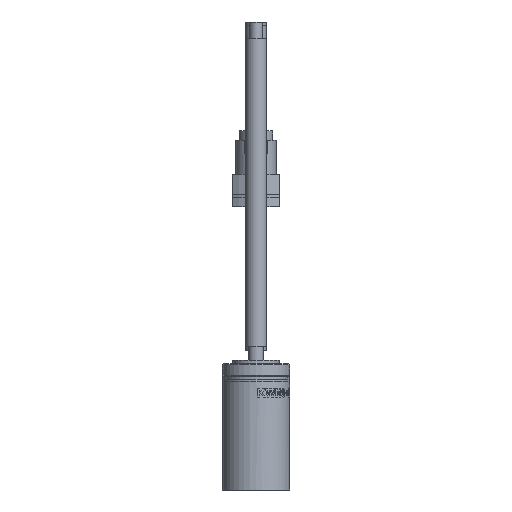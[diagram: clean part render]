
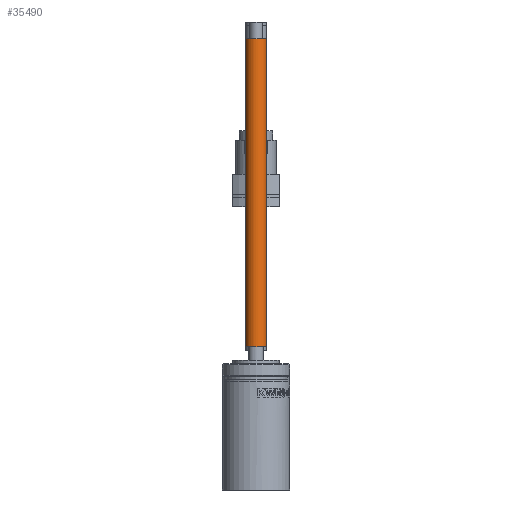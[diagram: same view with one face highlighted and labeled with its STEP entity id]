
A CAD part, left-side view. The second image highlights one B-rep face of the part: STEP entity #35490.
In plain terms, the highlighted cylindrical face has radius 1.5 mm (diameter 3 mm), a full revolution.
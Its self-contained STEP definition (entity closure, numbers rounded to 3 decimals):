
#35490=ADVANCED_FACE('',(#38256,#38257),#36236,.T.);
#36236=CYLINDRICAL_SURFACE('',#85391,1.5);
#38256=FACE_BOUND('',#43264,.T.);
#38257=FACE_BOUND('',#43265,.T.);
#43264=EDGE_LOOP('',(#60812));
#43265=EDGE_LOOP('',(#60813));
#60812=ORIENTED_EDGE('',*,*,#75742,.F.);
#60813=ORIENTED_EDGE('',*,*,#75741,.F.);
#66967=VERTEX_POINT('',#177711);
#66968=VERTEX_POINT('',#177714);
#75741=EDGE_CURVE('',#66967,#66967,#77688,.T.);
#75742=EDGE_CURVE('',#66968,#66968,#77689,.T.);
#77688=CIRCLE('',#85388,1.5);
#77689=CIRCLE('',#85390,1.5);
#85388=AXIS2_PLACEMENT_3D('',#177710,#97202,#97203);
#85390=AXIS2_PLACEMENT_3D('',#177713,#97206,#97207);
#85391=AXIS2_PLACEMENT_3D('',#177715,#97208,#97209);
#97202=DIRECTION('',(0.,0.,1.));
#97203=DIRECTION('',(-1.,0.,0.));
#97206=DIRECTION('',(0.,0.,-1.));
#97207=DIRECTION('',(-1.,0.,0.));
#97208=DIRECTION('',(0.,0.,-1.));
#97209=DIRECTION('',(-1.,0.,0.));
#177710=CARTESIAN_POINT('',(-186.,0.,66.7));
#177711=CARTESIAN_POINT('',(-187.5,0.,66.7));
#177713=CARTESIAN_POINT('',(-186.,0.,21.2));
#177714=CARTESIAN_POINT('',(-187.5,0.,21.2));
#177715=CARTESIAN_POINT('',(-186.,0.,18.7));
